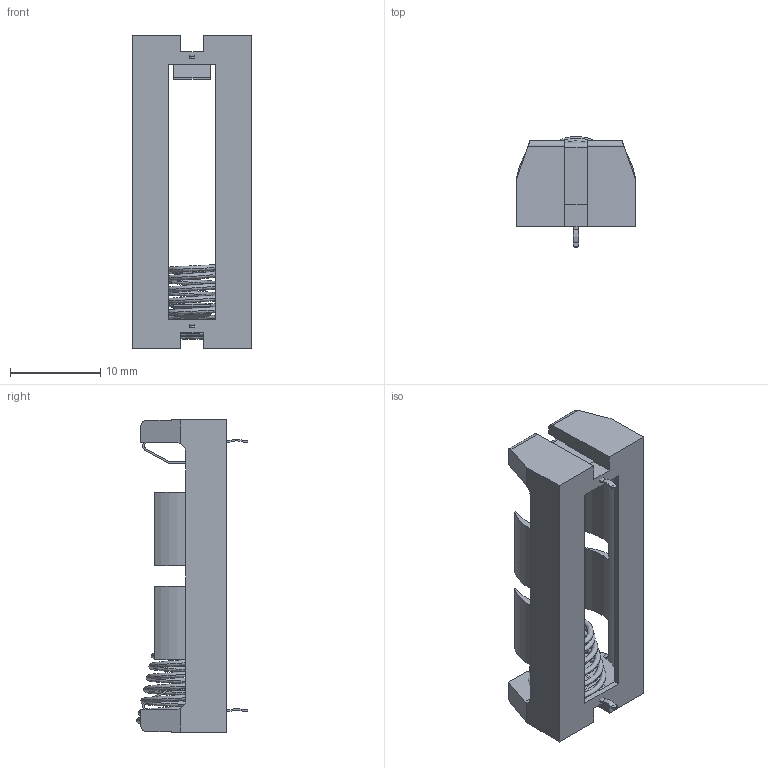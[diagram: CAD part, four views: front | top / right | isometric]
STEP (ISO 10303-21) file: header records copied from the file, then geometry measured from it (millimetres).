
FILE_DESCRIPTION(/* description */ (''),/* implementation_level */ '2;1');
FILE_NAME(/* name */ '/Users/juergen/Desktop/Battery and holder 23A Lady/Battery holder v4.step',/* time_stamp */ '2020-03-05T13:16:20+01:00',/* author */ (''),/* organization */ (''),/* preprocessor_version */ 'ST-DEVELOPER v18',/* originating_system */ 'Autodesk Translation Framework v8.12.0.6',/* authorisation */ '');
FILE_SCHEMA (('AUTOMOTIVE_DESIGN { 1 0 10303 214 3 1 1 }'));
Length unit declared in the file: millimetre
Products named in the file (7): Battery holder; Conical Spring v1; Plastic; Feder; Feder (1); Komponente7; Plastic (1)
Assembly tree (6 placements, depth 2):
  Battery holder
    Conical Spring v1
    Plastic
    Feder
    Feder (1)
    Komponente7
    Plastic (1)
Bounding box: 13.2 x 12.3 x 34.74 mm (x, y, z)
Volume: 1209.5 mm3; surface area: 2342.6 mm2
Topology: 4 solids, 4 shells, 130 faces, 354 edges, 232 vertices
Faces by surface type: plane 96, cylinder 22, bspline 12
Entity records: 9096 total; most frequent: CARTESIAN_POINT 5626, ORIENTED_EDGE 708, DIRECTION 646, EDGE_CURVE 354, LINE 272, VECTOR 272, VERTEX_POINT 232, AXIS2_PLACEMENT_3D 187
